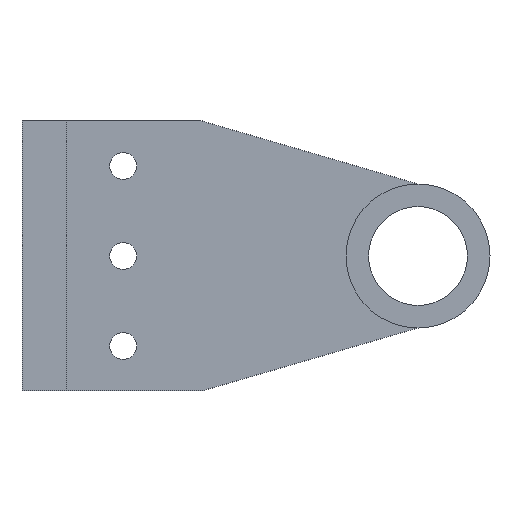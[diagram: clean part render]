
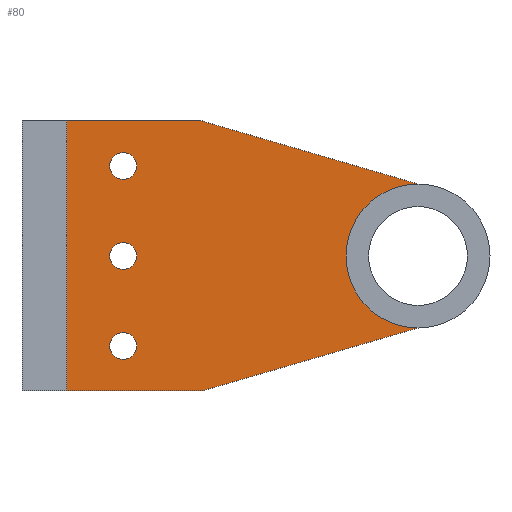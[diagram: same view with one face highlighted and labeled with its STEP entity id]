
A CAD part, front view. The second image highlights one B-rep face of the part: STEP entity #80.
In plain terms, the highlighted planar face has unit normal (0, -1, 0).
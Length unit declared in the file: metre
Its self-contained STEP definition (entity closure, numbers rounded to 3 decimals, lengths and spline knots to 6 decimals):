
#80 = ADVANCED_FACE( '', ( #114, #115, #116, #117 ), #118, .T. );
#114 = FACE_BOUND( '', #178, .T. );
#115 = FACE_BOUND( '', #179, .T. );
#116 = FACE_BOUND( '', #180, .T. );
#117 = FACE_OUTER_BOUND( '', #181, .T. );
#118 = PLANE( '', #182 );
#178 = EDGE_LOOP( '', ( #260 ) );
#179 = EDGE_LOOP( '', ( #261 ) );
#180 = EDGE_LOOP( '', ( #262 ) );
#181 = EDGE_LOOP( '', ( #263, #264, #265, #266, #267, #268 ) );
#182 = AXIS2_PLACEMENT_3D( '', #269, #270, #271 );
#260 = ORIENTED_EDGE( '', *, *, #409, .F. );
#261 = ORIENTED_EDGE( '', *, *, #400, .F. );
#262 = ORIENTED_EDGE( '', *, *, #399, .F. );
#263 = ORIENTED_EDGE( '', *, *, #410, .F. );
#264 = ORIENTED_EDGE( '', *, *, #411, .T. );
#265 = ORIENTED_EDGE( '', *, *, #412, .F. );
#266 = ORIENTED_EDGE( '', *, *, #413, .T. );
#267 = ORIENTED_EDGE( '', *, *, #414, .T. );
#268 = ORIENTED_EDGE( '', *, *, #415, .F. );
#269 = CARTESIAN_POINT( '', ( 0.04, 0.02, 0.06 ) );
#270 = DIRECTION( '', ( 0., -1., 0. ) );
#271 = DIRECTION( '', ( 1., 0., 0. ) );
#399 = EDGE_CURVE( '', #456, #456, #457, .T. );
#400 = EDGE_CURVE( '', #458, #458, #459, .T. );
#409 = EDGE_CURVE( '', #476, #476, #477, .T. );
#410 = EDGE_CURVE( '', #478, #479, #480, .T. );
#411 = EDGE_CURVE( '', #478, #481, #482, .F. );
#412 = EDGE_CURVE( '', #483, #481, #484, .T. );
#413 = EDGE_CURVE( '', #483, #485, #486, .T. );
#414 = EDGE_CURVE( '', #485, #487, #488, .T. );
#415 = EDGE_CURVE( '', #479, #487, #489, .T. );
#456 = VERTEX_POINT( '', #548 );
#457 = CIRCLE( '', #549, 0.003 );
#458 = VERTEX_POINT( '', #550 );
#459 = CIRCLE( '', #551, 0.003 );
#476 = VERTEX_POINT( '', #573 );
#477 = CIRCLE( '', #574, 0.003 );
#478 = VERTEX_POINT( '', #575 );
#479 = VERTEX_POINT( '', #576 );
#480 = LINE( '', #577, #578 );
#481 = VERTEX_POINT( '', #579 );
#482 = CIRCLE( '', #580, 0.016 );
#483 = VERTEX_POINT( '', #581 );
#484 = LINE( '', #582, #583 );
#485 = VERTEX_POINT( '', #584 );
#486 = LINE( '', #585, #586 );
#487 = VERTEX_POINT( '', #587 );
#488 = LINE( '', #588, #589 );
#489 = LINE( '', #590, #591 );
#548 = CARTESIAN_POINT( '', ( 0.0255, 0.02, 0.03 ) );
#549 = AXIS2_PLACEMENT_3D( '', #665, #666, #667 );
#550 = CARTESIAN_POINT( '', ( 0.0255, 0.02, 0.01 ) );
#551 = AXIS2_PLACEMENT_3D( '', #668, #669, #670 );
#573 = CARTESIAN_POINT( '', ( 0.0255, 0.02, 0.05 ) );
#574 = AXIS2_PLACEMENT_3D( '', #685, #686, #687 );
#575 = CARTESIAN_POINT( '', ( 0.088, 0.02, 0.014 ) );
#576 = CARTESIAN_POINT( '', ( 0.04, 0.02, 0. ) );
#577 = CARTESIAN_POINT( '', ( 0.088, 0.02, 0.014 ) );
#578 = VECTOR( '', #688, 1. );
#579 = CARTESIAN_POINT( '', ( 0.088, 0.02, 0.046 ) );
#580 = AXIS2_PLACEMENT_3D( '', #689, #690, #691 );
#581 = CARTESIAN_POINT( '', ( 0.04, 0.02, 0.06 ) );
#582 = CARTESIAN_POINT( '', ( 0.04, 0.02, 0.06 ) );
#583 = VECTOR( '', #692, 1. );
#584 = CARTESIAN_POINT( '', ( 0.01, 0.02, 0.06 ) );
#585 = CARTESIAN_POINT( '', ( 0.04, 0.02, 0.06 ) );
#586 = VECTOR( '', #693, 1. );
#587 = CARTESIAN_POINT( '', ( 0.01, 0.02, 0. ) );
#588 = CARTESIAN_POINT( '', ( 0.01, 0.02, 0.06 ) );
#589 = VECTOR( '', #694, 1. );
#590 = CARTESIAN_POINT( '', ( 0.04, 0.02, 0. ) );
#591 = VECTOR( '', #695, 1. );
#665 = CARTESIAN_POINT( '', ( 0.0225, 0.02, 0.03 ) );
#666 = DIRECTION( '', ( 0., -1., 0. ) );
#667 = DIRECTION( '', ( 1., 0., 0. ) );
#668 = CARTESIAN_POINT( '', ( 0.0225, 0.02, 0.01 ) );
#669 = DIRECTION( '', ( 0., -1., 0. ) );
#670 = DIRECTION( '', ( 1., 0., 0. ) );
#685 = CARTESIAN_POINT( '', ( 0.0225, 0.02, 0.05 ) );
#686 = DIRECTION( '', ( 0., -1., 0. ) );
#687 = DIRECTION( '', ( 1., 0., 0. ) );
#688 = DIRECTION( '', ( -0.96, 0., -0.28 ) );
#689 = CARTESIAN_POINT( '', ( 0.088, 0.02, 0.03 ) );
#690 = DIRECTION( '', ( 0., -1., 0. ) );
#691 = DIRECTION( '', ( 1., 0., 0. ) );
#692 = DIRECTION( '', ( 0.96, 0., -0.28 ) );
#693 = DIRECTION( '', ( -1., 0., 0. ) );
#694 = DIRECTION( '', ( 0., 0., -1. ) );
#695 = DIRECTION( '', ( -1., 0., 0. ) );
